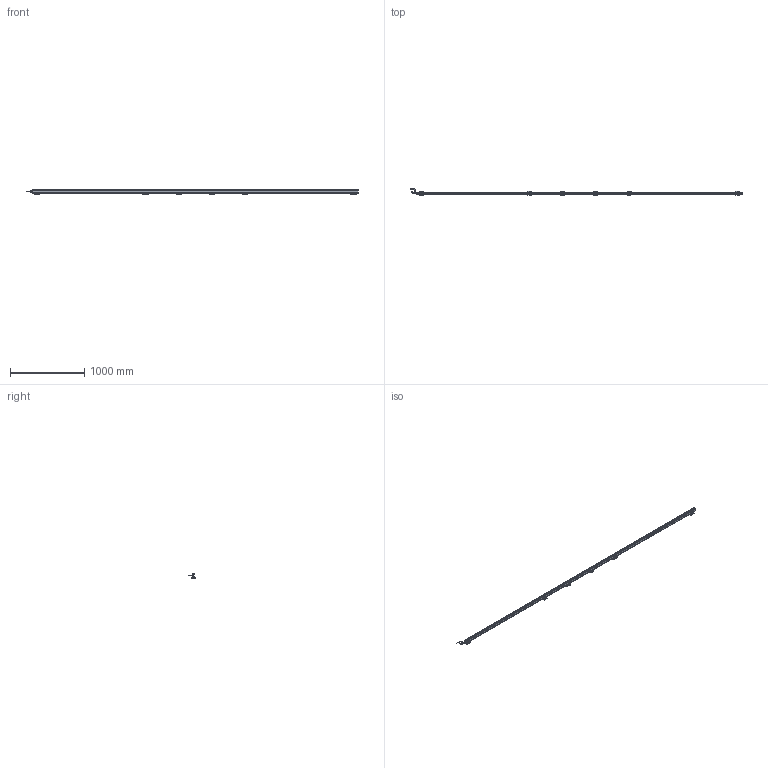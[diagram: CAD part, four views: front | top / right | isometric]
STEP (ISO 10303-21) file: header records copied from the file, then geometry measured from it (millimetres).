
FILE_DESCRIPTION(('Bauteilbeschreibung','HiCAD-Model','HiCAD-STEP-TRANSLATION','Bauteilbeschreibung'),'2;1');
FILE_NAME('PERFORMAXIQEASY_4290-4380_3D.STP','2014-03-05T13:37:45+00:00',('Konstrukteur'),('Konstrukteur Firma GmbH'),' HiCAD 2011, Step 1600.0 ','HiCAD 2011','confidential');
FILE_SCHEMA(('AUTOMOTIVE_DESIGN { 1 2 10303 214 0 1 1 1 }'));
Products named in the file (56): PERFORMAXIQEASY_4290_4380_3D; A_PERFORMAX IQ EASY 4290_4380; A_PERFORMAX IQ EASY SPEED; A_CAP DE; A_CAP CE_5; LED_2C_3MM; LED02C03MM; A519020315_CONNECTOR APPLIANCE; A_INSERT; A_CONTACTS; A_HOUSING; A_PROFILE; A_POTTING; PIN; PIN0; A532000100_BRACKET BARS_ MOUNT; A_SIDE PIECE; A0SIDE0PIECE; A_BRACKET SMALL; A_SLIDE PIECE; A5320001000BRACKET0BARS00MOUNT; A0SIDE0PIECE0; A0SIDE0PIECE1; A0BRACKET0SMALL; A0SLIDE0PIECE; A5320001000BRACKET0BARS00MOUNT0; A0SIDE0PIECE2; A0SIDE0PIECE3; A0BRACKET0SMALL0; A0SLIDE0PIECE0; A0SIDE0PIECE4; A0SIDE0PIECE5; A0BRACKET0SMALL1; A0SLIDE0PIECE1; A0SIDE0PIECE6; A0SIDE0PIECE7; A0BRACKET0SMALL2; A0SLIDE0PIECE2; A0SIDE0PIECE8; A0SIDE0PIECE9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
Assembly tree (55 placements, depth 5):
  PERFORMAXIQEASY_4290_4380_3D
    A_PERFORMAX IQ EASY 4290_4380
      A_PERFORMAX IQ EASY SPEED
        A_CAP DE
        A_CAP CE_5
        LED_2C_3MM
        LED02C03MM
        A519020315_CONNECTOR APPLIANCE
          A_INSERT
          A_CONTACTS
          A_HOUSING
        A_PROFILE
        A_POTTING
        PIN
        PIN0
      A532000100_BRACKET BARS_ MOUNT
        A_SIDE PIECE
        A0SIDE0PIECE
        A_BRACKET SMALL
        A_SLIDE PIECE
      A5320001000BRACKET0BARS00MOUNT
        A0SIDE0PIECE0
        A0SIDE0PIECE1
        A0BRACKET0SMALL
        A0SLIDE0PIECE
      A5320001000BRACKET0BARS00MOUNT0
        A0SIDE0PIECE2
        A0SIDE0PIECE3
        A0BRACKET0SMALL0
        A0SLIDE0PIECE0
      A5320001000BRACKET0BARS00MOUNT0
        A0SIDE0PIECE4
        A0SIDE0PIECE5
        A0BRACKET0SMALL1
        A0SLIDE0PIECE1
      A5320001000BRACKET0BARS00MOUNT0
        A0SIDE0PIECE6
        A0SIDE0PIECE7
        A0BRACKET0SMALL2
        A0SLIDE0PIECE2
      A5320001000BRACKET0BARS00MOUNT0
        A0SIDE0PIECE8
        A0SIDE0PIECE9
        A0BRACKET0SMALL3
        A0SLIDE0PIECE3
      A_CONNECTOR STRAIGHT
        EXTRUDED SOLID_0
        DRAAD GEBOGEN
        REVOLVED SOLID_1
        REVOLVED SOLID_3
      A_CONNECTOR ANGLED
        REVOLVED0SOLID01
        EXTRUDED0SOLID00
        C_EDGE SWEEP_0
        REVOLVED SOLID_2
        REVOLVED0SOLID03
Bounding box: 4457.89 x 84.24 x 63.13 mm (x, y, z)
Volume: 4497504.2 mm3; surface area: 1078913 mm2
Topology: 49 solids, 49 shells, 4983 faces, 12800 edges, 7585 vertices
Faces by surface type: cylinder 2137, plane 1879, sphere 332, torus 299, bspline 248, cone 88
Full cylindrical faces by diameter (mm): 0.8 x10, 1 x5, 2.387 x12, 3 x27, 3.1 x1, 4.2 x2, 5 x4, 5.5 x30, 8 x2, 8.2 x1, 8.4 x2, 8.945 x1, 9 x2, 10.2 x1, 10.5 x3, 11 x1, 12 x3, 12.8 x1, 13.8 x4, 14.5 x3
Entity records: 231105 total; most frequent: CARTESIAN_POINT 54548, DIRECTION 24777, ORIENTED_EDGE 24320, EDGE_CURVE 12160, COLOUR_RGB 11541, PRESENTATION_STYLE_ASSIGNMENT 11541, OVER_RIDING_STYLED_ITEM 11497, CURVE_STYLE 11492
